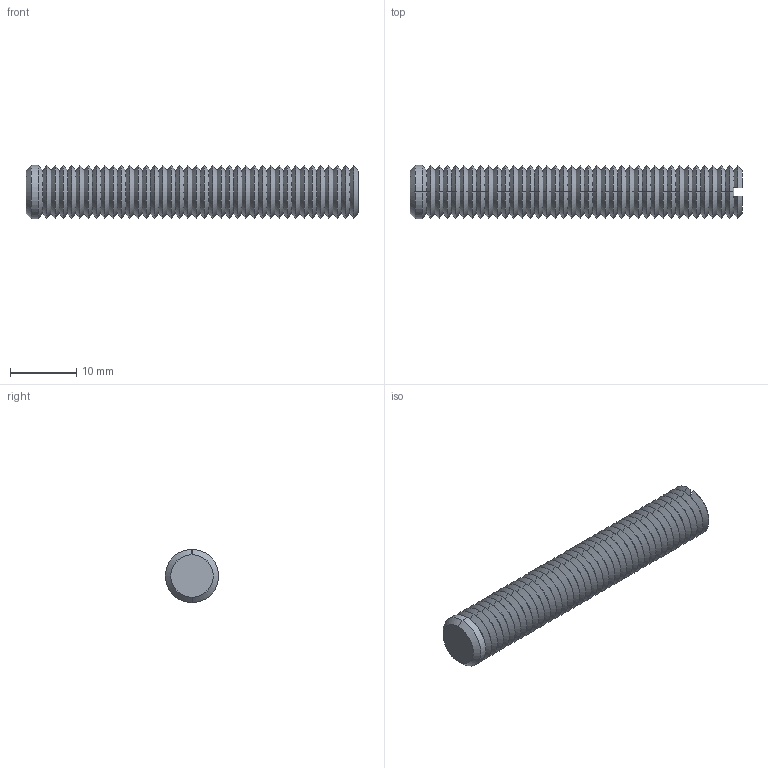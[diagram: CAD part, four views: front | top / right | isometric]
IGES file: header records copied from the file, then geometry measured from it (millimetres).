
Start section: SolidWorks IGES file using analytic representation for surfaces
Global section: file name: C:\Documents and Settings\IANO\Desktop\Temp File\Process pending\EXISTING\34300_v2\34300_v2_20170622_IGES\34300.W0085.igs; native system: SolidWorks 2009; preprocessor: SolidWorks 2009; author: IANO; date: 170622.093826; units: millimetre
Bounding box: 50 x 8 x 8 mm (x, y, z)
Surface area: 1876.5 mm2 (no closed solid volume)
Topology: 0 solids, 0 shells, 164 faces, 720 edges, 720 vertices
Faces by surface type: revolution 158, bspline 6
